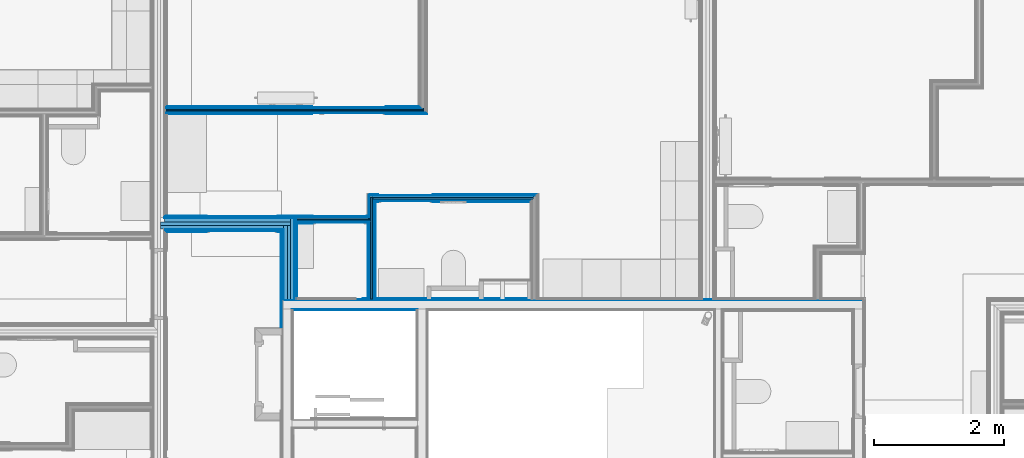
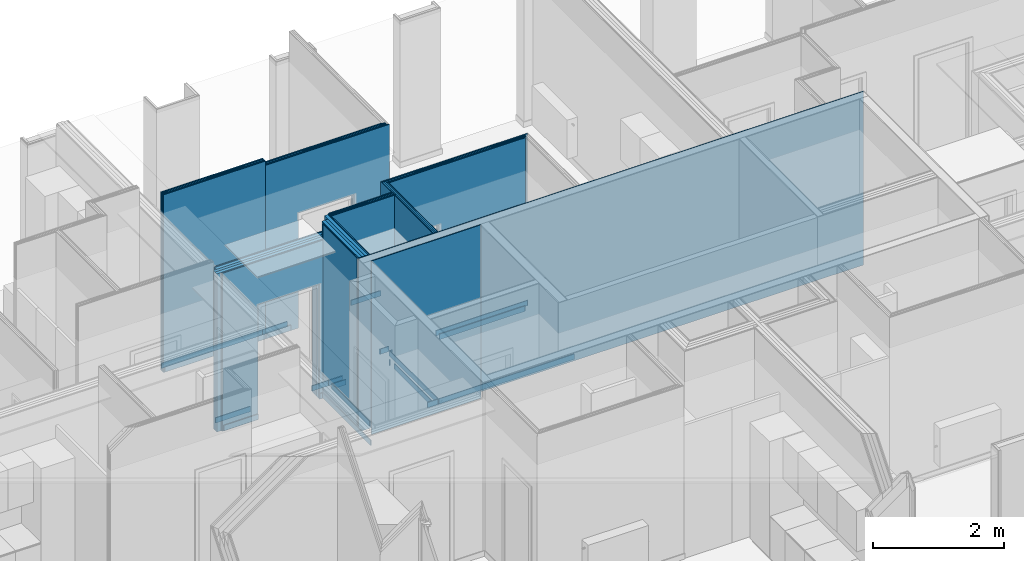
# One storey, part 16 of 64: 57 building element parts, 4 openings, 8 elements without a shape of their own.
"""IFC2X3 building model written with IfcOpenShell, lengths in metres."""

import ifcopenshell
import ifcopenshell.guid

model = None  # the IFC model being written
_history = None  # IfcOwnerHistory: only IFC2X3 demands one
_inside = {}  # id of a spatial element -> (the spatial element, [elements in it])
_under = {}  # id of a project, library or spatial element -> (it, [spatial elements below it])
_declared = {}  # id of a project -> (the project, [libraries it declares])
_typed = {}  # id of a type object -> (the type object, [elements of that type])
_made_of = {}  # id of a material, layer set ... -> (it, [elements and type objects made of it])


def new_model(schema):
    """Start an empty IFC model of exactly this schema.

    Asked for "IFC4X3", IfcOpenShell would pick the latest addendum, in which some entities
    have other attributes; the version numbers below select the first issue.
    IFC2X3 requires an IfcOwnerHistory on every rooted entity: one is made here for all.
    """
    global model, _history
    if schema == "IFC4X3":
        model = ifcopenshell.file(schema_version=(4, 3, 0, 0))
    else:
        model = ifcopenshell.file(schema=schema)
    _inside.clear()
    _under.clear()
    _declared.clear()
    _typed.clear()
    _made_of.clear()
    _history = None
    if model.schema == "IFC2X3":
        org = make("IfcOrganization", Name="unknown")
        user = make(
            "IfcPersonAndOrganization",
            ThePerson=make("IfcPerson", FamilyName="unknown"),
            TheOrganization=org,
        )
        app = make(
            "IfcApplication",
            ApplicationDeveloper=org,
            Version="unknown",
            ApplicationFullName="unknown",
            ApplicationIdentifier="unknown",
        )
        _history = make(
            "IfcOwnerHistory",
            OwningUser=user,
            OwningApplication=app,
            ChangeAction="ADDED",
            CreationDate=0,
        )
    return model


def make(cls, **values):
    """One entity of the class cls with the attributes given. An attribute that is None is left unset."""
    return model.create_entity(
        cls, **{name: value for name, value in values.items() if value is not None}
    )


def entity(cls, *values):
    """Any entity or typed value of the class cls, its attributes in the order of the schema. None: left unset."""
    e = model.create_entity(cls)
    for i, value in enumerate(values):
        if value is not None:
            e[i] = value
    return e


def rooted(cls, **values):
    """An entity with a GlobalId (a new one), such as an element, a storey or a relation."""
    return make(cls, GlobalId=ifcopenshell.guid.new(), OwnerHistory=_history, **values)


def si_unit(unit_type, name, prefix=None):
    """IfcSIUnit, for example si_unit("LENGTHUNIT", "METRE", prefix="MILLI")."""
    return make("IfcSIUnit", UnitType=unit_type, Prefix=prefix, Name=name)


def converted_unit(unit_type, name, factor, base, dimensions=None, offset=None):
    """IfcConversionBasedUnit, such as the inch: factor (a typed value) times the base unit."""
    return make(
        "IfcConversionBasedUnit"
        if offset is None
        else "IfcConversionBasedUnitWithOffset",
        ConversionOffset=offset,
        Dimensions=None
        if dimensions is None
        else entity("IfcDimensionalExponents", *dimensions),
        UnitType=unit_type,
        Name=name,
        ConversionFactor=make(
            "IfcMeasureWithUnit", ValueComponent=factor, UnitComponent=base
        ),
    )


def derived_unit(unit_type, elements):
    """IfcDerivedUnit: a product of units, each with its exponent."""
    return make(
        "IfcDerivedUnit",
        Elements=[
            make("IfcDerivedUnitElement", Unit=unit, Exponent=power)
            for unit, power in elements
        ],
        UnitType=unit_type,
    )


def money_unit(currency):
    """IfcMonetaryUnit."""
    return make("IfcMonetaryUnit", Currency=currency)


def assignment(units):
    """IfcUnitAssignment: the units of a project."""
    return None if units is None else make("IfcUnitAssignment", Units=units)


def point(xyz):
    """IfcCartesianPoint."""
    return None if xyz is None else make("IfcCartesianPoint", Coordinates=xyz)


def direction(xyz):
    """IfcDirection."""
    return None if xyz is None else make("IfcDirection", DirectionRatios=xyz)


def frame(location, z_axis=None, x_axis=None):
    """IfcAxis2Placement3D, a coordinate frame: its origin and axes. An axis left out is left unset."""
    return make(
        "IfcAxis2Placement3D",
        Location=point(location),
        Axis=direction(z_axis),
        RefDirection=direction(x_axis),
    )


def frame_2d(location, x_axis=None):
    """IfcAxis2Placement2D, a coordinate frame in the plane: its origin and x axis."""
    return make(
        "IfcAxis2Placement2D", Location=point(location), RefDirection=direction(x_axis)
    )


def origin_with_axes():
    """The frame at (0, 0, 0) with the z axis (0, 0, 1) and the x axis (1, 0, 0) written out."""
    return frame((0.0, 0.0, 0.0), z_axis=(0.0, 0.0, 1.0), x_axis=(1.0, 0.0, 0.0))


def place(relative_to, where):
    """IfcLocalPlacement: puts the frame where relative to a parent placement (None: the world)."""
    return make(
        "IfcLocalPlacement", PlacementRelTo=relative_to, RelativePlacement=where
    )


def context(
    kind, dimensions, precision=None, world=None, true_north=None, identifier=None
):
    """IfcGeometricRepresentationContext, for example the 3D "Model" context."""
    return make(
        "IfcGeometricRepresentationContext",
        ContextIdentifier=identifier,
        ContextType=kind,
        CoordinateSpaceDimension=dimensions,
        Precision=precision,
        WorldCoordinateSystem=world,
        TrueNorth=true_north,
    )


def subcontext(parent, identifier, kind, view, scale=None):
    """IfcGeometricRepresentationSubContext, for example "Body" below "Model"."""
    return make(
        "IfcGeometricRepresentationSubContext",
        ContextIdentifier=identifier,
        ContextType=kind,
        ParentContext=parent,
        TargetScale=scale,
        TargetView=view,
    )


def project(units=None, contexts=None):
    """IfcProject with its units and contexts."""
    return rooted(
        "IfcProject",
        Name="project",
        RepresentationContexts=contexts,
        UnitsInContext=assignment(units),
    )


def spatial(cls, under=None, at=None, **own):
    """A site, building, storey or space (cls), placed at a placement, below another one or the project."""
    s = rooted(cls, ObjectPlacement=at, **own)
    if under is not None:
        _under.setdefault(under.id(), (under, []))[1].append(s)
    return s


def polyline(points):
    """IfcPolyline through the points."""
    return make("IfcPolyline", Points=[point(p) for p in points])


def profile(cls, at=None, kind="AREA", **sizes):
    """A parametric profile (cls). Its sizes go by their IFC names, for example OverallWidth=200.0."""
    return make(cls, ProfileType=kind, Position=at, **sizes)


def rectangle(**sizes):
    """IfcRectangleProfileDef."""
    return profile("IfcRectangleProfileDef", **sizes)


def outline(outer, holes=None, kind="AREA"):
    """IfcArbitraryClosedProfileDef: a profile drawn as a closed curve; with holes, ...WithVoids."""
    if holes is None:
        return make("IfcArbitraryClosedProfileDef", ProfileType=kind, OuterCurve=outer)
    return make(
        "IfcArbitraryProfileDefWithVoids",
        ProfileType=kind,
        OuterCurve=outer,
        InnerCurves=holes,
    )


def extrude(swept, where, along, depth):
    """IfcExtrudedAreaSolid: the profile swept, set in the frame where, extruded along a direction by depth."""
    return make(
        "IfcExtrudedAreaSolid",
        SweptArea=swept,
        Position=where,
        ExtrudedDirection=direction(along),
        Depth=depth,
    )


def shape(context_of_items, identifier, shape_type, items):
    """IfcShapeRepresentation: the items that make up one representation, for example the "Body"."""
    return make(
        "IfcShapeRepresentation",
        ContextOfItems=context_of_items,
        RepresentationIdentifier=identifier,
        RepresentationType=shape_type,
        Items=items,
    )


def material(Name=None, Category=None):
    """IfcMaterial."""
    return make("IfcMaterial", Name=Name, Category=Category)


def made_of(thing, what):
    """Note that an element or type object is made of a material, layer set ...; save() writes the relation."""
    if what is not None:
        _made_of.setdefault(what.id(), (what, []))[1].append(thing)
    return thing


def type_object(cls, material=None, **own):
    """A type object (cls), such as IfcWallType, which elements share."""
    return made_of(rooted(cls, **own), material)


def element(
    cls,
    number,
    at=None,
    inside=None,
    cuts=None,
    type_object=None,
    material=None,
    context=None,
    identifier="Body",
    shape_type=None,
    held_by="IfcProductDefinitionShape",
    body=None,
    shapes=None,
    **own,
):
    """One element of the class cls, such as IfcWall. Its Tag is "e" and its number.

    at: its placement. inside: the storey or other place that contains it. cuts: it is an
    opening in that element (IfcRelVoidsElement). A single representation is given by context,
    identifier, shape_type and body (its items); several are given by shapes. held_by: the class
    of the entity that holds the representations. save() writes the other relations.
    """
    e = rooted(cls, Tag="e%d" % number, ObjectPlacement=at, **own)
    if body is not None:
        shapes = [shape(context, identifier, shape_type, body)]
    if shapes is not None:
        e.Representation = make(held_by, Representations=shapes)
    if inside is not None:
        _inside.setdefault(inside.id(), (inside, []))[1].append(e)
    if cuts is not None:
        rooted(
            "IfcRelVoidsElement", RelatingBuildingElement=cuts, RelatedOpeningElement=e
        )
    if type_object is not None:
        _typed.setdefault(type_object.id(), (type_object, []))[1].append(e)
    return made_of(e, material)


def aggregate(whole, parts):
    """IfcRelAggregates: a whole, such as a stair, and the parts it consists of."""
    return rooted("IfcRelAggregates", RelatingObject=whole, RelatedObjects=parts)


def save(model, path):
    """Write the relations noted so far, then the file.

    IfcRelAggregates (storeys below a building ...), IfcRelContainedInSpatialStructure (elements
    in a storey), IfcRelDefinesByType, IfcRelAssociatesMaterial and IfcRelDeclares: one each for
    every whole, place, type object, material and project.
    """
    for whole, parts in _under.values():
        aggregate(whole, parts)
    for where, things in _inside.values():
        rooted(
            "IfcRelContainedInSpatialStructure",
            RelatedElements=things,
            RelatingStructure=where,
        )
    for kind, things in _typed.values():
        rooted("IfcRelDefinesByType", RelatedObjects=things, RelatingType=kind)
    for what, things in _made_of.values():
        rooted("IfcRelAssociatesMaterial", RelatedObjects=things, RelatingMaterial=what)
    for by, libraries in _declared.values():
        rooted("IfcRelDeclares", RelatingContext=by, RelatedDefinitions=libraries)
    model.write(path)


model = new_model("IFC2X3")

# Units and contexts
model_context = context("Model", 3, precision=1e-05, world=origin_with_axes(), true_north=direction((0.0, 1.0)))
body_context = subcontext(model_context, "Body", "Model", "MODEL_VIEW", scale=1.0)
ifc_project = project(units=[si_unit("LENGTHUNIT", "METRE"), si_unit("AREAUNIT", "SQUARE_METRE"), si_unit("VOLUMEUNIT", "CUBIC_METRE"), si_unit("ABSORBEDDOSEUNIT", "GRAY"), si_unit("AMOUNTOFSUBSTANCEUNIT", "MOLE"), si_unit("DOSEEQUIVALENTUNIT", "SIEVERT"), si_unit("ELECTRICCAPACITANCEUNIT", "FARAD"), si_unit("ELECTRICCHARGEUNIT", "COULOMB"), si_unit("ELECTRICCONDUCTANCEUNIT", "SIEMENS"), si_unit("ELECTRICCURRENTUNIT", "AMPERE"), si_unit("ELECTRICRESISTANCEUNIT", "OHM"), si_unit("ELECTRICVOLTAGEUNIT", "VOLT"), si_unit("ENERGYUNIT", "JOULE"), si_unit("FORCEUNIT", "NEWTON"), si_unit("FREQUENCYUNIT", "HERTZ"), si_unit("ILLUMINANCEUNIT", "LUX"), si_unit("INDUCTANCEUNIT", "HENRY"), si_unit("LUMINOUSFLUXUNIT", "LUMEN"), si_unit("LUMINOUSINTENSITYUNIT", "CANDELA"), si_unit("MAGNETICFLUXDENSITYUNIT", "TESLA"), si_unit("MAGNETICFLUXUNIT", "WEBER"), si_unit("MASSUNIT", "GRAM"), converted_unit("PLANEANGLEUNIT", "degree", entity("IfcReal", 0.0174532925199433), si_unit("PLANEANGLEUNIT", "RADIAN"), dimensions=[0, 0, 0, 0, 0, 0, 0]), si_unit("POWERUNIT", "WATT"), si_unit("PRESSUREUNIT", "PASCAL"), si_unit("RADIOACTIVITYUNIT", "BECQUEREL"), si_unit("SOLIDANGLEUNIT", "STERADIAN"), si_unit("THERMODYNAMICTEMPERATUREUNIT", "KELVIN"), si_unit("TIMEUNIT", "SECOND"), derived_unit("ACCELERATIONUNIT", [(si_unit("LENGTHUNIT", "METRE"), 1), (si_unit("TIMEUNIT", "SECOND"), -2)]), derived_unit("ANGULARVELOCITYUNIT", [(converted_unit("PLANEANGLEUNIT", "degree", entity("IfcReal", 0.0174532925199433), si_unit("PLANEANGLEUNIT", "RADIAN"), dimensions=[0, 0, 0, 0, 0, 0, 0]), 1), (si_unit("TIMEUNIT", "SECOND"), -1)]), derived_unit("CURVATUREUNIT", [(converted_unit("PLANEANGLEUNIT", "degree", entity("IfcReal", 0.0174532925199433), si_unit("PLANEANGLEUNIT", "RADIAN"), dimensions=[0, 0, 0, 0, 0, 0, 0]), 1), (si_unit("LENGTHUNIT", "METRE"), -1)]), derived_unit("DYNAMICVISCOSITYUNIT", [(si_unit("PRESSUREUNIT", "PASCAL"), 1), (si_unit("TIMEUNIT", "SECOND"), 1)]), derived_unit("HEATFLUXDENSITYUNIT", [(si_unit("POWERUNIT", "WATT"), 1), (si_unit("LENGTHUNIT", "METRE"), -2)]), derived_unit("HEATINGVALUEUNIT", [(si_unit("ENERGYUNIT", "JOULE"), 1), (si_unit("MASSUNIT", "GRAM"), -1)]), derived_unit("INTEGERCOUNTRATEUNIT", [(si_unit("TIMEUNIT", "SECOND"), -1)]), derived_unit("IONCONCENTRATIONUNIT", [(si_unit("MASSUNIT", "GRAM"), 1), (si_unit("VOLUMEUNIT", "CUBIC_METRE"), -1)]), derived_unit("ISOTHERMALMOISTURECAPACITYUNIT", [(si_unit("VOLUMEUNIT", "CUBIC_METRE"), 1), (si_unit("MASSUNIT", "GRAM"), -1)]), derived_unit("KINEMATICVISCOSITYUNIT", [(si_unit("AREAUNIT", "SQUARE_METRE"), 1), (si_unit("TIMEUNIT", "SECOND"), -1)]), derived_unit("LINEARFORCEUNIT", [(si_unit("FORCEUNIT", "NEWTON"), 1), (si_unit("LENGTHUNIT", "METRE"), -1)]), derived_unit("LINEARMOMENTUNIT", [(si_unit("FORCEUNIT", "NEWTON"), 1), (si_unit("LENGTHUNIT", "METRE"), -1)]), derived_unit("LINEARSTIFFNESSUNIT", [(si_unit("FORCEUNIT", "NEWTON"), 1), (si_unit("LENGTHUNIT", "METRE"), -1)]), derived_unit("LINEARVELOCITYUNIT", [(si_unit("LENGTHUNIT", "METRE"), 1), (si_unit("TIMEUNIT", "SECOND"), -1)]), derived_unit("LUMINOUSINTENSITYDISTRIBUTIONUNIT", [(si_unit("LUMINOUSINTENSITYUNIT", "CANDELA"), 1), (si_unit("LUMINOUSFLUXUNIT", "LUMEN"), -1)]), derived_unit("MASSDENSITYUNIT", [(si_unit("MASSUNIT", "GRAM"), 1), (si_unit("VOLUMEUNIT", "CUBIC_METRE"), -1)]), derived_unit("MASSFLOWRATEUNIT", [(si_unit("MASSUNIT", "GRAM"), 1), (si_unit("TIMEUNIT", "SECOND"), -1)]), derived_unit("MASSPERLENGTHUNIT", [(si_unit("MASSUNIT", "GRAM"), 1), (si_unit("LENGTHUNIT", "METRE"), -1)]), derived_unit("MODULUSOFELASTICITYUNIT", [(si_unit("FORCEUNIT", "NEWTON"), 1), (si_unit("AREAUNIT", "SQUARE_METRE"), -1)]), derived_unit("MODULUSOFLINEARSUBGRADEREACTIONUNIT", [(si_unit("FORCEUNIT", "NEWTON"), 1), (si_unit("LENGTHUNIT", "METRE"), -2)]), derived_unit("MODULUSOFROTATIONALSUBGRADEREACTIONUNIT", [(si_unit("FORCEUNIT", "NEWTON"), 1), (si_unit("LENGTHUNIT", "METRE"), 1)]), derived_unit("MODULUSOFSUBGRADEREACTIONUNIT", [(si_unit("FORCEUNIT", "NEWTON"), 1), (si_unit("VOLUMEUNIT", "CUBIC_METRE"), -1)]), derived_unit("MOISTUREDIFFUSIVITYUNIT", [(si_unit("VOLUMEUNIT", "CUBIC_METRE"), 1), (si_unit("TIMEUNIT", "SECOND"), -1)]), derived_unit("MOLECULARWEIGHTUNIT", [(si_unit("MASSUNIT", "GRAM"), 1), (si_unit("AMOUNTOFSUBSTANCEUNIT", "MOLE"), -1)]), derived_unit("PLANARFORCEUNIT", [(si_unit("FORCEUNIT", "NEWTON"), 1), (si_unit("LENGTHUNIT", "METRE"), -2)]), derived_unit("ROTATIONALFREQUENCYUNIT", [(si_unit("TIMEUNIT", "SECOND"), -1)]), derived_unit("ROTATIONALMASSUNIT", [(si_unit("MASSUNIT", "GRAM"), 1), (si_unit("LENGTHUNIT", "METRE"), 2)]), derived_unit("ROTATIONALSTIFFNESSUNIT", [(si_unit("FORCEUNIT", "NEWTON"), 1), (si_unit("LENGTHUNIT", "METRE"), 1), (converted_unit("PLANEANGLEUNIT", "degree", entity("IfcReal", 0.0174532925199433), si_unit("PLANEANGLEUNIT", "RADIAN"), dimensions=[0, 0, 0, 0, 0, 0, 0]), -1)]), derived_unit("SECTIONAREAINTEGRALUNIT", [(si_unit("LENGTHUNIT", "METRE"), 5)]), derived_unit("SECTIONMODULUSUNIT", [(si_unit("LENGTHUNIT", "METRE"), 3)]), derived_unit("SHEARMODULUSUNIT", [(si_unit("FORCEUNIT", "NEWTON"), 1), (si_unit("AREAUNIT", "SQUARE_METRE"), -1)]), derived_unit("SOUNDPOWERUNIT", [(si_unit("ENERGYUNIT", "JOULE"), 1), (si_unit("TIMEUNIT", "SECOND"), -1)]), derived_unit("SPECIFICHEATCAPACITYUNIT", [(si_unit("FORCEUNIT", "NEWTON"), 1), (si_unit("MASSUNIT", "GRAM"), -1), (si_unit("THERMODYNAMICTEMPERATUREUNIT", "KELVIN"), -1)]), derived_unit("TEMPERATUREGRADIENTUNIT", [(si_unit("THERMODYNAMICTEMPERATUREUNIT", "KELVIN"), 1), (si_unit("LENGTHUNIT", "METRE"), -1)]), derived_unit("THERMALADMITTANCEUNIT", [(si_unit("POWERUNIT", "WATT"), 1), (si_unit("AREAUNIT", "SQUARE_METRE"), -1), (si_unit("THERMODYNAMICTEMPERATUREUNIT", "KELVIN"), -1)]), derived_unit("THERMALCONDUCTANCEUNIT", [(si_unit("POWERUNIT", "WATT"), 1), (si_unit("LENGTHUNIT", "METRE"), -1), (si_unit("THERMODYNAMICTEMPERATUREUNIT", "KELVIN"), -1)]), derived_unit("THERMALEXPANSIONCOEFFICIENTUNIT", [(si_unit("THERMODYNAMICTEMPERATUREUNIT", "KELVIN"), -1)]), derived_unit("THERMALRESISTANCEUNIT", [(si_unit("AREAUNIT", "SQUARE_METRE"), 1), (si_unit("POWERUNIT", "WATT"), -1)]), derived_unit("THERMALTRANSMITTANCEUNIT", [(si_unit("POWERUNIT", "WATT"), 1), (si_unit("AREAUNIT", "SQUARE_METRE"), -1), (si_unit("THERMODYNAMICTEMPERATUREUNIT", "KELVIN"), -1)]), derived_unit("TORQUEUNIT", [(si_unit("FORCEUNIT", "NEWTON"), 1), (si_unit("LENGTHUNIT", "METRE"), 1)]), derived_unit("VAPORPERMEABILITYUNIT", [(si_unit("MASSUNIT", "GRAM"), 1), (si_unit("TIMEUNIT", "SECOND"), -1)]), derived_unit("VOLUMETRICFLOWRATEUNIT", [(si_unit("VOLUMEUNIT", "CUBIC_METRE"), 1), (si_unit("TIMEUNIT", "SECOND"), -1)]), derived_unit("WARPINGCONSTANTUNIT", [(si_unit("LENGTHUNIT", "METRE"), 6)]), derived_unit("WARPINGMOMENTUNIT", [(si_unit("FORCEUNIT", "NEWTON"), 1), (si_unit("LENGTHUNIT", "METRE"), 2)]), money_unit("GBP")], contexts=[model_context])

# Site, building, storey
site_placement = place(None, origin_with_axes())
site = spatial("IfcSite", under=ifc_project, at=site_placement, Name="Site", CompositionType="ELEMENT")
building_placement = place(site_placement, origin_with_axes())
building = spatial("IfcBuilding", under=site, at=building_placement, Name="Building01", CompositionType="ELEMENT")
storey_placement = place(building_placement, frame((0.0, 0.0, 8.64), z_axis=(0.0, 0.0, 1.0), x_axis=(1.0, 0.0, 0.0)))
storey = spatial("IfcBuildingStorey", under=building, at=storey_placement, Name="2F", CompositionType="ELEMENT", Elevation=8.64)

# Wall, opening, building element parts
wall_type_1 = type_object("IfcWallType", Name="SHE_A-Walls_Type05a_Partition_95mm_tall", PredefinedType="NOTDEFINED")
wall_1_placement = place(storey_placement, frame((10.453871, 10.355, 0.0), z_axis=(0.0, 0.0, 1.0), x_axis=(1.0, 0.0, 0.0)))
wall_1 = element("IfcWall", 1, at=wall_1_placement, inside=storey, type_object=wall_type_1, Name="5A", ObjectType="SHE_A-Walls_Type05a_Partition_95mm_tall")
opening_1_placement = place(wall_1_placement, frame((0.086065, -0.05, 0.0), z_axis=(0.0, 0.0, 1.0), x_axis=(1.0, 0.0, 0.0)))
element("IfcOpeningElement", 2, at=opening_1_placement, cuts=wall_1, Name="Opening", ObjectType="Opening", context=body_context, shape_type="SweptSolid", body=[
    extrude(rectangle(XDim=0.834, YDim=2.142, at=frame_2d((-0.417, 1.071), x_axis=(1.0, 0.0))), frame((0.0, 0.0, 0.0), z_axis=(0.0, 1.0, 0.0), x_axis=(-1.0, 0.0, 0.0)), (0.0, 0.0, 1.0), 0.125),
])
ifc_material_1 = material(Name="A_BSUK_Walls_Timber")
placement_1 = place(wall_1_placement, origin_with_axes())
building_element_part_1 = element("IfcBuildingElementPart", 3, at=placement_1, material=ifc_material_1, Name="1", context=body_context, shape_type="SweptSolid", body=[
    extrude(outline(polyline([(2.439714, -0.035), (0.035, -0.035), (0.05, -0.05), (2.424714, -0.05), (2.439714, -0.035)])), frame((0.0, 0.0, 0.015), z_axis=(0.0, 0.0, 1.0), x_axis=(1.0, 0.0, 0.0)), (0.0, 0.0, 1.0), 0.1),
])
ifc_material_2 = material(Name="A_BSUK_WallInternal_Finishes_Plasterboard")
building_element_part_2 = element("IfcBuildingElementPart", 4, at=placement_1, material=ifc_material_2, Name="2", context=body_context, shape_type="SweptSolid", body=[
    extrude(outline(polyline([(2.451714, -0.023), (0.023, -0.023), (0.035, -0.035), (2.439714, -0.035), (2.451714, -0.023)])), origin_with_axes(), (0.0, 0.0, 1.0), 3.24),
])
ifc_material_3 = material(Name="Air Cavity")
building_element_part_3 = element("IfcBuildingElementPart", 5, at=placement_1, material=ifc_material_3, Name="3", context=body_context, shape_type="SweptSolid", body=[
    extrude(outline(polyline([(2.474714, 0.0), (0.0, 0.0), (0.023, -0.023), (2.451714, -0.023), (2.474714, 0.0)])), origin_with_axes(), (0.0, 0.0, 1.0), 3.24),
])
ifc_material_4 = material(Name="A_BSUK_Insulation")
building_element_part_4 = element("IfcBuildingElementPart", 6, at=placement_1, material=ifc_material_4, Name="4", context=body_context, shape_type="SweptSolid", body=[
    extrude(rectangle(XDim=2.474714, YDim=0.025, at=frame_2d((1.237357, 0.0125), x_axis=(-1.0, 0.0))), origin_with_axes(), (0.0, 0.0, 1.0), 3.24),
])
building_element_part_5 = element("IfcBuildingElementPart", 7, at=placement_1, material=ifc_material_3, Name="5", context=body_context, shape_type="SweptSolid", body=[
    extrude(rectangle(XDim=2.474714, YDim=0.023, at=frame_2d((1.237357, 0.0365), x_axis=(-1.0, 0.0))), origin_with_axes(), (0.0, 0.0, 1.0), 3.24),
])
building_element_part_6 = element("IfcBuildingElementPart", 8, at=placement_1, material=ifc_material_2, Name="6", context=body_context, shape_type="SweptSolid", body=[
    extrude(outline(polyline([(2.534714, 0.06), (-0.06, 0.06), (-0.048, 0.048), (2.522714, 0.048), (2.534714, 0.06)])), origin_with_axes(), (0.0, 0.0, 1.0), 3.24),
])
building_element_part_7 = element("IfcBuildingElementPart", 9, at=placement_1, material=ifc_material_1, Name="7", context=body_context, shape_type="SweptSolid", body=[
    extrude(outline(polyline([(2.549714, 0.075), (-0.075, 0.075), (-0.06, 0.06), (2.534714, 0.06), (2.549714, 0.075)])), frame((0.0, 0.0, 0.015), z_axis=(0.0, 0.0, 1.0), x_axis=(1.0, 0.0, 0.0)), (0.0, 0.0, 1.0), 0.1),
])
aggregate(wall_1, [building_element_part_1, building_element_part_2, building_element_part_3, building_element_part_4, building_element_part_5, building_element_part_6, building_element_part_7])

wall_type_2 = type_object("IfcWallType", Name="SHE_A-Walls_Type01c_Partywall_225mm_twin_tall", PredefinedType="NOTDEFINED")
wall_2_placement = place(storey_placement, frame((9.197, 9.949704, 0.0), z_axis=(0.0, 0.0, 1.0), x_axis=(-1.0, 0.0, 0.0)))
wall_2 = element("IfcWall", 10, at=wall_2_placement, inside=storey, type_object=wall_type_2, Name="1C", ObjectType="SHE_A-Walls_Type01c_Partywall_225mm_twin_tall")
opening_2_placement = place(wall_2_placement, frame((0.200331, -0.153, 0.0), z_axis=(0.0, 0.0, 1.0), x_axis=(1.0, 0.0, 0.0)))
element("IfcOpeningElement", 11, at=opening_2_placement, cuts=wall_2, Name="Opening", ObjectType="Opening", context=body_context, shape_type="SweptSolid", body=[
    extrude(rectangle(XDim=1.084, YDim=2.142, at=frame_2d((-0.542, 1.071), x_axis=(-1.0, 0.0))), frame((0.0, 0.0, 0.0), z_axis=(0.0, 1.0, 0.0), x_axis=(-1.0, 0.0, 0.0)), (0.0, 0.0, 1.0), 0.255),
])
placement_2 = place(wall_2_placement, origin_with_axes())
building_element_part_8 = element("IfcBuildingElementPart", 12, at=placement_2, material=ifc_material_1, Name="1", context=body_context, shape_type="SweptSolid", body=[
    extrude(outline(polyline([(1.907331, -0.138), (-0.088, -0.138), (-0.103, -0.153), (1.907331, -0.153), (1.907331, -0.138)])), frame((0.0, 0.0, 0.015), z_axis=(0.0, 0.0, 1.0), x_axis=(1.0, 0.0, 0.0)), (0.0, 0.0, 1.0), 0.1),
])
building_element_part_9 = element("IfcBuildingElementPart", 13, at=placement_2, material=ifc_material_2, Name="2", context=body_context, shape_type="SweptSolid", body=[
    extrude(rectangle(XDim=2.010331, YDim=0.015, at=frame_2d((0.917166, -0.1305), x_axis=(-1.0, 0.0))), origin_with_axes(), (0.0, 0.0, 1.0), 2.95),
])
building_element_part_10 = element("IfcBuildingElementPart", 14, at=placement_2, material=ifc_material_2, Name="3", context=body_context, shape_type="SweptSolid", body=[
    extrude(rectangle(XDim=2.010331, YDim=0.015, at=frame_2d((0.932166, -0.1155), x_axis=(-1.0, 0.0))), origin_with_axes(), (0.0, 0.0, 1.0), 2.95),
])
building_element_part_11 = element("IfcBuildingElementPart", 15, at=placement_2, material=ifc_material_3, Name="4", context=body_context, shape_type="SweptSolid", body=[
    extrude(rectangle(XDim=2.010331, YDim=0.058, at=frame_2d((0.932166, -0.079), x_axis=(-1.0, 0.0))), origin_with_axes(), (0.0, 0.0, 1.0), 2.95),
])
building_element_part_12 = element("IfcBuildingElementPart", 16, at=placement_2, material=ifc_material_4, Name="5", context=body_context, shape_type="SweptSolid", body=[
    extrude(rectangle(XDim=1.995331, YDim=0.05, at=frame_2d((0.997666, -0.025), x_axis=(-1.0, 0.0))), origin_with_axes(), (0.0, 0.0, 1.0), 2.95),
])
building_element_part_13 = element("IfcBuildingElementPart", 17, at=placement_2, material=ifc_material_3, Name="6", context=body_context, shape_type="SweptSolid", body=[
    extrude(rectangle(XDim=1.995331, YDim=0.057, at=frame_2d((0.997666, 0.0285), x_axis=(-1.0, 0.0))), origin_with_axes(), (0.0, 0.0, 1.0), 2.95),
])
building_element_part_14 = element("IfcBuildingElementPart", 18, at=placement_2, material=ifc_material_2, Name="7", context=body_context, shape_type="SweptSolid", body=[
    extrude(outline(polyline([(1.922331, 0.072), (0.122, 0.072), (0.107, 0.057), (1.922331, 0.057), (1.922331, 0.072)])), origin_with_axes(), (0.0, 0.0, 1.0), 2.95),
])
building_element_part_15 = element("IfcBuildingElementPart", 19, at=placement_2, material=ifc_material_2, Name="8", context=body_context, shape_type="SweptSolid", body=[
    extrude(outline(polyline([(1.907331, 0.087), (0.137, 0.087), (0.122, 0.072), (1.907331, 0.072), (1.907331, 0.087)])), origin_with_axes(), (0.0, 0.0, 1.0), 2.95),
])
building_element_part_16 = element("IfcBuildingElementPart", 20, at=placement_2, material=ifc_material_1, Name="9", context=body_context, shape_type="SweptSolid", body=[
    extrude(outline(polyline([(1.892331, 0.102), (0.152, 0.102), (0.137, 0.087), (1.892331, 0.087), (1.892331, 0.102)])), frame((0.0, 0.0, 0.015), z_axis=(0.0, 0.0, 1.0), x_axis=(1.0, 0.0, 0.0)), (0.0, 0.0, 1.0), 0.1),
])
aggregate(wall_2, [building_element_part_8, building_element_part_9, building_element_part_10, building_element_part_11, building_element_part_12, building_element_part_13, building_element_part_14, building_element_part_15, building_element_part_16])

# Wall, building element parts
wall_3_placement = place(storey_placement, frame((9.09, 11.703124, 0.0), z_axis=(0.0, 0.0, 1.0), x_axis=(-1.0, 0.0, 0.0)))
wall_3 = element("IfcWall", 21, at=wall_3_placement, inside=storey, type_object=wall_type_1, Name="5A", ObjectType="SHE_A-Walls_Type05a_Partition_95mm_tall")
placement_3 = place(wall_3_placement, origin_with_axes())
building_element_part_17 = element("IfcBuildingElementPart", 22, at=placement_3, material=ifc_material_1, Name="1", context=body_context, shape_type="SweptSolid", body=[
    extrude(rectangle(XDim=1.785331, YDim=0.015, at=frame_2d((0.892666, -0.0675), x_axis=(-1.0, 0.0))), frame((0.0, 0.0, 0.015), z_axis=(0.0, 0.0, 1.0), x_axis=(1.0, 0.0, 0.0)), (0.0, 0.0, 1.0), 0.1),
])
building_element_part_18 = element("IfcBuildingElementPart", 23, at=placement_3, material=ifc_material_2, Name="2", context=body_context, shape_type="SweptSolid", body=[
    extrude(rectangle(XDim=1.800331, YDim=0.012, at=frame_2d((0.900166, -0.054), x_axis=(1.0, 0.0))), origin_with_axes(), (0.0, 0.0, 1.0), 3.32),
])
building_element_part_19 = element("IfcBuildingElementPart", 24, at=placement_3, material=ifc_material_3, Name="3", context=body_context, shape_type="SweptSolid", body=[
    extrude(rectangle(XDim=1.800331, YDim=0.023, at=frame_2d((0.900166, -0.0365), x_axis=(1.0, 0.0))), origin_with_axes(), (0.0, 0.0, 1.0), 3.32),
])
building_element_part_20 = element("IfcBuildingElementPart", 25, at=placement_3, material=ifc_material_4, Name="4", context=body_context, shape_type="SweptSolid", body=[
    extrude(rectangle(XDim=1.800331, YDim=0.025, at=frame_2d((0.900166, -0.0125), x_axis=(1.0, 0.0))), origin_with_axes(), (0.0, 0.0, 1.0), 3.32),
])
building_element_part_21 = element("IfcBuildingElementPart", 26, at=placement_3, material=ifc_material_3, Name="5", context=body_context, shape_type="SweptSolid", body=[
    extrude(rectangle(XDim=1.800331, YDim=0.023, at=frame_2d((0.900166, 0.0115), x_axis=(1.0, 0.0))), origin_with_axes(), (0.0, 0.0, 1.0), 3.32),
])
building_element_part_22 = element("IfcBuildingElementPart", 27, at=placement_3, material=ifc_material_2, Name="6", context=body_context, shape_type="SweptSolid", body=[
    extrude(rectangle(XDim=1.800331, YDim=0.012, at=frame_2d((0.900166, 0.029), x_axis=(1.0, 0.0))), origin_with_axes(), (0.0, 0.0, 1.0), 3.32),
])
building_element_part_23 = element("IfcBuildingElementPart", 28, at=placement_3, material=ifc_material_1, Name="7", context=body_context, shape_type="SweptSolid", body=[
    extrude(rectangle(XDim=1.785331, YDim=0.015, at=frame_2d((0.892666, 0.0425), x_axis=(-1.0, 0.0))), frame((0.0, 0.0, 0.015), z_axis=(0.0, 0.0, 1.0), x_axis=(1.0, 0.0, 0.0)), (0.0, 0.0, 1.0), 0.1),
])
aggregate(wall_3, [building_element_part_17, building_element_part_18, building_element_part_19, building_element_part_20, building_element_part_21, building_element_part_22, building_element_part_23])

# Wall, opening, building element parts
wall_4_placement = place(storey_placement, frame((9.09, 11.703124, 0.0), z_axis=(0.0, 0.0, 1.0), x_axis=(1.0, 0.0, 0.0)))
wall_4 = element("IfcWall", 29, at=wall_4_placement, inside=storey, type_object=wall_type_1, Name="5A", ObjectType="SHE_A-Walls_Type05a_Partition_95mm_tall")
opening_3_placement = place(wall_4_placement, frame((0.579, -0.05, -0.015), z_axis=(0.0, 0.0, 1.0), x_axis=(1.0, 0.0, 0.0)))
element("IfcOpeningElement", 30, at=opening_3_placement, cuts=wall_4, Name="Opening", ObjectType="Opening", context=body_context, shape_type="SweptSolid", body=[
    extrude(outline(polyline([(-0.042, 0.0), (-0.042, 0.015), (0.0, 0.015), (0.0, 2.157), (-0.984, 2.157), (-0.984, 0.015), (-0.840883, 0.015), (-0.840883, 0.0), (-0.042, 0.0)])), frame((0.0, 0.0, 0.0), z_axis=(0.0, 1.0, 0.0), x_axis=(-1.0, 0.0, 0.0)), (0.0, 0.0, 1.0), 0.125),
    extrude(outline(polyline([(-0.942, 0.015), (-0.942, 0.0), (-0.042, 0.0), (-0.042, 0.015), (0.0, 0.015), (0.0, 2.157), (-0.984, 2.157), (-0.984, 0.015), (-0.942, 0.015)])), frame((0.0, 0.015, 0.0), z_axis=(0.0, 1.0, 0.0), x_axis=(-1.0, 0.0, 0.0)), (0.0, 0.0, 1.0), 0.012),
    extrude(outline(polyline([(0.0, 2.142), (0.0, 2.157), (-0.984, 2.157), (-0.984, 0.015), (-0.840883, 0.015), (-0.840883, 0.0), (0.143117, 0.0), (0.143117, 2.142), (0.0, 2.142)])), frame((0.0, 0.0, 0.0), z_axis=(0.0, 1.0, 0.0), x_axis=(-1.0, 0.0, 0.0)), (0.0, 0.0, 1.0), 0.015),
    extrude(outline(polyline([(-0.942, 0.015), (-0.942, 0.0), (-0.042, 0.0), (-0.042, 0.015), (0.0, 0.015), (0.0, 2.157), (-0.984, 2.157), (-0.984, 0.015), (-0.942, 0.015)])), frame((0.0, 0.027, 0.0), z_axis=(0.0, 1.0, 0.0), x_axis=(-1.0, 0.0, 0.0)), (0.0, 0.0, 1.0), 0.023),
    extrude(outline(polyline([(-0.942, 0.015), (-0.942, 0.0), (-0.042, 0.0), (-0.042, 0.015), (0.0, 0.015), (0.0, 2.157), (-0.984, 2.157), (-0.984, 0.015), (-0.942, 0.015)])), frame((0.0, 0.05, 0.0), z_axis=(0.0, 1.0, 0.0), x_axis=(-1.0, 0.0, 0.0)), (0.0, 0.0, 1.0), 0.025),
    extrude(outline(polyline([(-0.942, 0.015), (-0.942, 0.0), (-0.042, 0.0), (-0.042, 0.015), (0.0, 0.015), (0.0, 2.157), (-0.984, 2.157), (-0.984, 0.015), (-0.942, 0.015)])), frame((0.0, 0.075, 0.0), z_axis=(0.0, 1.0, 0.0), x_axis=(-1.0, 0.0, 0.0)), (0.0, 0.0, 1.0), 0.023),
    extrude(outline(polyline([(-0.942, 0.015), (-0.942, 0.0), (-0.042, 0.0), (-0.042, 0.015), (0.0, 0.015), (0.0, 2.157), (-0.984, 2.157), (-0.984, 0.015), (-0.942, 0.015)])), frame((0.0, 0.098, 0.0), z_axis=(0.0, 1.0, 0.0), x_axis=(-1.0, 0.0, 0.0)), (0.0, 0.0, 1.0), 0.012),
    extrude(outline(polyline([(-0.840883, 0.015), (-0.840883, 0.0), (0.143117, 0.0), (0.143117, 2.142), (0.0, 2.142), (0.0, 2.157), (-0.984, 2.157), (-0.984, 0.015), (-0.840883, 0.015)])), frame((0.0, 0.11, 0.0), z_axis=(0.0, 1.0, 0.0), x_axis=(-1.0, 0.0, 0.0)), (0.0, 0.0, 1.0), 0.015),
])
placement_4 = place(wall_4_placement, origin_with_axes())
building_element_part_24 = element("IfcBuildingElementPart", 31, at=placement_4, material=ifc_material_1, Name="1", context=body_context, shape_type="SweptSolid", body=[
    extrude(outline(polyline([(2.185, -0.035), (0.0, -0.035), (0.0, -0.05), (2.2, -0.05), (2.185, -0.035)])), frame((0.0, 0.0, 0.015), z_axis=(0.0, 0.0, 1.0), x_axis=(1.0, 0.0, 0.0)), (0.0, 0.0, 1.0), 0.1),
])
building_element_part_25 = element("IfcBuildingElementPart", 32, at=placement_4, material=ifc_material_2, Name="2", context=body_context, shape_type="SweptSolid", body=[
    extrude(outline(polyline([(2.173, -0.023), (0.0, -0.023), (0.0, -0.035), (2.185, -0.035), (2.173, -0.023)])), origin_with_axes(), (0.0, 0.0, 1.0), 3.24),
])
building_element_part_26 = element("IfcBuildingElementPart", 33, at=placement_4, material=ifc_material_3, Name="3", context=body_context, shape_type="SweptSolid", body=[
    extrude(outline(polyline([(2.15, 0.0), (0.0, 0.0), (0.0, -0.023), (2.173, -0.023), (2.15, 0.0)])), origin_with_axes(), (0.0, 0.0, 1.0), 3.24),
])
building_element_part_27 = element("IfcBuildingElementPart", 34, at=placement_4, material=ifc_material_4, Name="4", context=body_context, shape_type="SweptSolid", body=[
    extrude(rectangle(XDim=2.15, YDim=0.025, at=frame_2d((1.075, 0.0125), x_axis=(-1.0, 0.0))), origin_with_axes(), (0.0, 0.0, 1.0), 3.24),
])
building_element_part_28 = element("IfcBuildingElementPart", 35, at=placement_4, material=ifc_material_3, Name="5", context=body_context, shape_type="SweptSolid", body=[
    extrude(rectangle(XDim=2.15, YDim=0.023, at=frame_2d((1.075, 0.0365), x_axis=(-1.0, 0.0))), origin_with_axes(), (0.0, 0.0, 1.0), 3.24),
])
building_element_part_29 = element("IfcBuildingElementPart", 36, at=placement_4, material=ifc_material_2, Name="6", context=body_context, shape_type="SweptSolid", body=[
    extrude(outline(polyline([(2.09, 0.06), (0.0, 0.06), (0.0, 0.048), (2.102, 0.048), (2.09, 0.06)])), origin_with_axes(), (0.0, 0.0, 1.0), 3.24),
])
building_element_part_30 = element("IfcBuildingElementPart", 37, at=placement_4, material=ifc_material_1, Name="7", context=body_context, shape_type="SweptSolid", body=[
    extrude(outline(polyline([(2.075, 0.075), (0.0, 0.075), (0.0, 0.06), (2.09, 0.06), (2.075, 0.075)])), frame((0.0, 0.0, 0.015), z_axis=(0.0, 0.0, 1.0), x_axis=(1.0, 0.0, 0.0)), (0.0, 0.0, 1.0), 0.1),
])
aggregate(wall_4, [building_element_part_24, building_element_part_25, building_element_part_26, building_element_part_27, building_element_part_28, building_element_part_29, building_element_part_30])

wall_5_placement = place(storey_placement, frame((10.428871, 10.052704, 0.0), z_axis=(0.0, 0.0, 1.0), x_axis=(-1.0, 0.0, 0.0)))
wall_5 = element("IfcWall", 38, at=wall_5_placement, inside=storey, type_object=wall_type_1, Name="5A", ObjectType="SHE_A-Walls_Type05a_Partition_95mm_tall")
opening_4_placement = place(wall_5_placement, frame((0.062, -0.05, 0.0), z_axis=(0.0, 0.0, 1.0), x_axis=(1.0, 0.0, 0.0)))
element("IfcOpeningElement", 39, at=opening_4_placement, cuts=wall_5, Name="Opening", ObjectType="Opening", context=body_context, shape_type="SweptSolid", body=[
    extrude(rectangle(XDim=0.834, YDim=2.142, at=frame_2d((-0.417, 1.071), x_axis=(1.0, 0.0))), frame((0.0, 0.0, 0.0), z_axis=(0.0, 1.0, 0.0), x_axis=(-1.0, 0.0, 0.0)), (0.0, 0.0, 1.0), 0.125),
])
placement_5 = place(wall_5_placement, origin_with_axes())
building_element_part_31 = element("IfcBuildingElementPart", 40, at=placement_5, material=ifc_material_1, Name="1", context=body_context, shape_type="SweptSolid", body=[
    extrude(rectangle(XDim=0.015, YDim=1.093871, at=frame_2d((0.596935, -0.0425), x_axis=(0.0, -1.0))), frame((0.0, 0.0, 0.015), z_axis=(0.0, 0.0, 1.0), x_axis=(1.0, 0.0, 0.0)), (0.0, 0.0, 1.0), 0.1),
])
building_element_part_32 = element("IfcBuildingElementPart", 41, at=placement_5, material=ifc_material_2, Name="2", context=body_context, shape_type="SweptSolid", body=[
    extrude(rectangle(XDim=1.108871, YDim=0.012, at=frame_2d((0.589435, -0.029), x_axis=(-1.0, 0.0))), origin_with_axes(), (0.0, 0.0, 1.0), 3.24),
])
building_element_part_33 = element("IfcBuildingElementPart", 42, at=placement_5, material=ifc_material_3, Name="3", context=body_context, shape_type="SweptSolid", body=[
    extrude(rectangle(XDim=1.108871, YDim=0.023, at=frame_2d((0.589435, -0.0115), x_axis=(-1.0, 0.0))), origin_with_axes(), (0.0, 0.0, 1.0), 3.24),
])
building_element_part_34 = element("IfcBuildingElementPart", 43, at=placement_5, material=ifc_material_4, Name="4", context=body_context, shape_type="SweptSolid", body=[
    extrude(rectangle(XDim=1.143871, YDim=0.025, at=frame_2d((0.571935, 0.0125), x_axis=(-1.0, 0.0))), origin_with_axes(), (0.0, 0.0, 1.0), 3.24),
])
building_element_part_35 = element("IfcBuildingElementPart", 44, at=placement_5, material=ifc_material_3, Name="5", context=body_context, shape_type="SweptSolid", body=[
    extrude(rectangle(XDim=1.143871, YDim=0.023, at=frame_2d((0.571935, 0.0365), x_axis=(-1.0, 0.0))), origin_with_axes(), (0.0, 0.0, 1.0), 3.24),
])
building_element_part_36 = element("IfcBuildingElementPart", 45, at=placement_5, material=ifc_material_2, Name="6", context=body_context, shape_type="SweptSolid", body=[
    extrude(rectangle(XDim=1.108871, YDim=0.012, at=frame_2d((0.589435, 0.054), x_axis=(-1.0, 0.0))), origin_with_axes(), (0.0, 0.0, 1.0), 3.24),
])
building_element_part_37 = element("IfcBuildingElementPart", 46, at=placement_5, material=ifc_material_1, Name="7", context=body_context, shape_type="SweptSolid", body=[
    extrude(outline(polyline([(1.128871, 0.075), (0.25, 0.075), (0.235, 0.06), (1.128871, 0.06), (1.128871, 0.075)])), frame((0.0, 0.0, 0.015), z_axis=(0.0, 0.0, 1.0), x_axis=(1.0, 0.0, 0.0)), (0.0, 0.0, 1.0), 0.1),
])
aggregate(wall_5, [building_element_part_31, building_element_part_32, building_element_part_33, building_element_part_34, building_element_part_35, building_element_part_36, building_element_part_37])

# Wall, building element parts
wall_type_3 = type_object("IfcWallType", Name="SHE_A-Walls_Type03a_BlockworkWall_170mm", PredefinedType="NOTDEFINED")
wall_6_placement = place(storey_placement, frame((17.985, 8.805, 0.0), z_axis=(0.0, 0.0, 1.0), x_axis=(-1.0, 0.0, 0.0)))
wall_6 = element("IfcWall", 47, at=wall_6_placement, inside=storey, type_object=wall_type_3, Name="4B", ObjectType="SHE_A-Walls_Type03a_BlockworkWall_170mm")
placement_6 = place(wall_6_placement, origin_with_axes())
building_element_part_38 = element("IfcBuildingElementPart", 48, at=placement_6, material=ifc_material_1, Name="5", context=body_context, shape_type="SweptSolid", body=[
    extrude(rectangle(XDim=2.589714, YDim=0.015, at=frame_2d((6.386272, -0.0225), x_axis=(-1.0, 0.0))), frame((0.0, 0.0, 0.015), z_axis=(0.0, 0.0, 1.0), x_axis=(1.0, 0.0, 0.0)), (0.0, 0.0, 1.0), 0.1),
])
building_element_part_39 = element("IfcBuildingElementPart", 49, at=placement_6, material=ifc_material_2, Name="7", context=body_context, shape_type="SweptSolid", body=[
    extrude(rectangle(XDim=8.91, YDim=0.015, at=frame_2d((4.455, -0.0075), x_axis=(-1.0, 0.0))), origin_with_axes(), (0.0, 0.0, 1.0), 3.24),
])
ifc_material_5 = material(Name="A_BSUK_WallInternal_Finishes_Plaster")
building_element_part_40 = element("IfcBuildingElementPart", 50, at=placement_6, material=ifc_material_5, Name="10", context=body_context, shape_type="SweptSolid", body=[
    extrude(rectangle(XDim=1.93, YDim=0.015, at=frame_2d((7.805, 0.1475), x_axis=(-1.0, 0.0))), origin_with_axes(), (0.0, 0.0, 1.0), 3.24),
])
aggregate(wall_6, [building_element_part_38, building_element_part_39, building_element_part_40])

wall_7_placement = place(storey_placement, frame((9.147, 8.82, 0.0), z_axis=(0.0, 0.0, 1.0), x_axis=(0.0, 1.0, 0.0)))
wall_7 = element("IfcWall", 51, at=wall_7_placement, inside=storey, type_object=wall_type_2, Name="1C", ObjectType="SHE_A-Walls_Type01c_Partywall_225mm_twin_tall")
placement_7 = place(wall_7_placement, origin_with_axes())
building_element_part_41 = element("IfcBuildingElementPart", 52, at=placement_7, material=ifc_material_1, Name="1", context=body_context, shape_type="SweptSolid", body=[
    extrude(rectangle(XDim=1.157704, YDim=0.015, at=frame_2d((0.593852, -0.1455), x_axis=(-1.0, 0.0))), frame((0.0, 0.0, 0.015), z_axis=(0.0, 0.0, 1.0), x_axis=(1.0, 0.0, 0.0)), (0.0, 0.0, 1.0), 0.1),
])
building_element_part_42 = element("IfcBuildingElementPart", 53, at=placement_7, material=ifc_material_2, Name="2", context=body_context, shape_type="SweptSolid", body=[
    extrude(rectangle(XDim=1.252704, YDim=0.015, at=frame_2d((0.626352, -0.1305), x_axis=(-1.0, 0.0))), origin_with_axes(), (0.0, 0.0, 1.0), 3.24),
])
building_element_part_43 = element("IfcBuildingElementPart", 54, at=placement_7, material=ifc_material_2, Name="3", context=body_context, shape_type="SweptSolid", body=[
    extrude(rectangle(XDim=1.237704, YDim=0.015, at=frame_2d((0.618852, -0.1155), x_axis=(-1.0, 0.0))), origin_with_axes(), (0.0, 0.0, 1.0), 3.24),
])
building_element_part_44 = element("IfcBuildingElementPart", 55, at=placement_7, material=ifc_material_3, Name="4", context=body_context, shape_type="SweptSolid", body=[
    extrude(rectangle(XDim=1.237704, YDim=0.058, at=frame_2d((0.618852, -0.079), x_axis=(-1.0, 0.0))), origin_with_axes(), (0.0, 0.0, 1.0), 3.24),
])
building_element_part_45 = element("IfcBuildingElementPart", 56, at=placement_7, material=ifc_material_4, Name="5", context=body_context, shape_type="SweptSolid", body=[
    extrude(rectangle(XDim=1.129704, YDim=0.05, at=frame_2d((0.564852, -0.025), x_axis=(-1.0, 0.0))), origin_with_axes(), (0.0, 0.0, 1.0), 3.24),
])
building_element_part_46 = element("IfcBuildingElementPart", 57, at=placement_7, material=ifc_material_3, Name="6", context=body_context, shape_type="SweptSolid", body=[
    extrude(rectangle(XDim=1.129704, YDim=0.057, at=frame_2d((0.564852, 0.0285), x_axis=(-1.0, 0.0))), origin_with_axes(), (0.0, 0.0, 1.0), 3.24),
])
building_element_part_47 = element("IfcBuildingElementPart", 58, at=placement_7, material=ifc_material_2, Name="7", context=body_context, shape_type="SweptSolid", body=[
    extrude(outline(polyline([(1.057704, 0.072), (0.0, 0.072), (0.0, 0.057), (1.072704, 0.057), (1.057704, 0.072)])), origin_with_axes(), (0.0, 0.0, 1.0), 3.24),
])
building_element_part_48 = element("IfcBuildingElementPart", 59, at=placement_7, material=ifc_material_2, Name="8", context=body_context, shape_type="SweptSolid", body=[
    extrude(outline(polyline([(1.042704, 0.087), (0.0, 0.087), (0.0, 0.072), (1.057704, 0.072), (1.042704, 0.087)])), origin_with_axes(), (0.0, 0.0, 1.0), 3.24),
])
building_element_part_49 = element("IfcBuildingElementPart", 60, at=placement_7, material=ifc_material_1, Name="9", context=body_context, shape_type="SweptSolid", body=[
    extrude(outline(polyline([(1.027704, 0.102), (-0.432595, 0.102), (-0.432595, 0.087), (1.042704, 0.087), (1.027704, 0.102)])), frame((0.0, 0.0, 0.015), z_axis=(0.0, 0.0, 1.0), x_axis=(1.0, 0.0, 0.0)), (0.0, 0.0, 1.0), 0.1),
])
aggregate(wall_7, [building_element_part_41, building_element_part_42, building_element_part_43, building_element_part_44, building_element_part_45, building_element_part_46, building_element_part_47, building_element_part_48, building_element_part_49])

wall_8_placement = place(storey_placement, frame((10.453871, 8.82, 0.0), z_axis=(0.0, 0.0, 1.0), x_axis=(0.0, 1.0, 0.0)))
wall_8 = element("IfcWall", 61, at=wall_8_placement, inside=storey, type_object=wall_type_1, Name="5A", ObjectType="SHE_A-Walls_Type05a_Partition_95mm_tall")
placement_8 = place(wall_8_placement, origin_with_axes())
building_element_part_50 = element("IfcBuildingElementPart", 62, at=placement_8, material=ifc_material_1, Name="1", context=body_context, shape_type="SweptSolid", body=[
    extrude(outline(polyline([(1.5, -0.035), (0.0, -0.035), (0.0, -0.05), (1.485, -0.05), (1.5, -0.035)])), frame((0.0, 0.0, 0.015), z_axis=(0.0, 0.0, 1.0), x_axis=(1.0, 0.0, 0.0)), (0.0, 0.0, 1.0), 0.1),
])
building_element_part_51 = element("IfcBuildingElementPart", 63, at=placement_8, material=ifc_material_2, Name="2", context=body_context, shape_type="SweptSolid", body=[
    extrude(outline(polyline([(1.512, -0.023), (0.0, -0.023), (0.0, -0.035), (1.5, -0.035), (1.512, -0.023)])), origin_with_axes(), (0.0, 0.0, 1.0), 3.24),
])
building_element_part_52 = element("IfcBuildingElementPart", 64, at=placement_8, material=ifc_material_3, Name="3", context=body_context, shape_type="SweptSolid", body=[
    extrude(outline(polyline([(1.535, 0.0), (0.0, 0.0), (0.0, -0.023), (1.512, -0.023), (1.535, 0.0)])), origin_with_axes(), (0.0, 0.0, 1.0), 3.24),
])
building_element_part_53 = element("IfcBuildingElementPart", 65, at=placement_8, material=ifc_material_4, Name="4", context=body_context, shape_type="SweptSolid", body=[
    extrude(rectangle(XDim=1.56, YDim=0.025, at=frame_2d((0.78, 0.0125), x_axis=(-1.0, 0.0))), origin_with_axes(), (0.0, 0.0, 1.0), 3.24),
])
building_element_part_54 = element("IfcBuildingElementPart", 66, at=placement_8, material=ifc_material_3, Name="5", context=body_context, shape_type="SweptSolid", body=[
    extrude(rectangle(XDim=1.56, YDim=0.023, at=frame_2d((0.78, 0.0365), x_axis=(-1.0, 0.0))), origin_with_axes(), (0.0, 0.0, 1.0), 3.24),
])
building_element_part_55 = element("IfcBuildingElementPart", 67, at=placement_8, material=ifc_material_2, Name="6", context=body_context, shape_type="SweptSolid", body=[
    extrude(rectangle(XDim=1.184704, YDim=0.012, at=frame_2d((0.592352, 0.054), x_axis=(-1.0, 0.0))), origin_with_axes(), (0.0, 0.0, 1.0), 3.24),
])
building_element_part_56 = element("IfcBuildingElementPart", 68, at=placement_8, material=ifc_material_2, Name="7", context=body_context, shape_type="SweptSolid", body=[
    extrude(outline(polyline([(1.595, 0.06), (1.255704, 0.06), (1.255704, 0.048), (1.583, 0.048), (1.595, 0.06)])), origin_with_axes(), (0.0, 0.0, 1.0), 3.24),
])
building_element_part_57 = element("IfcBuildingElementPart", 69, at=placement_8, material=ifc_material_1, Name="8", context=body_context, shape_type="SweptSolid", body=[
    extrude(rectangle(XDim=0.015, YDim=1.138704, at=frame_2d((0.584352, 0.0675), x_axis=(0.0, -1.0))), frame((0.0, 0.0, 0.015), z_axis=(0.0, 0.0, 1.0), x_axis=(1.0, 0.0, 0.0)), (0.0, 0.0, 1.0), 0.1),
])
aggregate(wall_8, [building_element_part_50, building_element_part_51, building_element_part_52, building_element_part_53, building_element_part_54, building_element_part_55, building_element_part_56, building_element_part_57])

save(model, "model.ifc")
